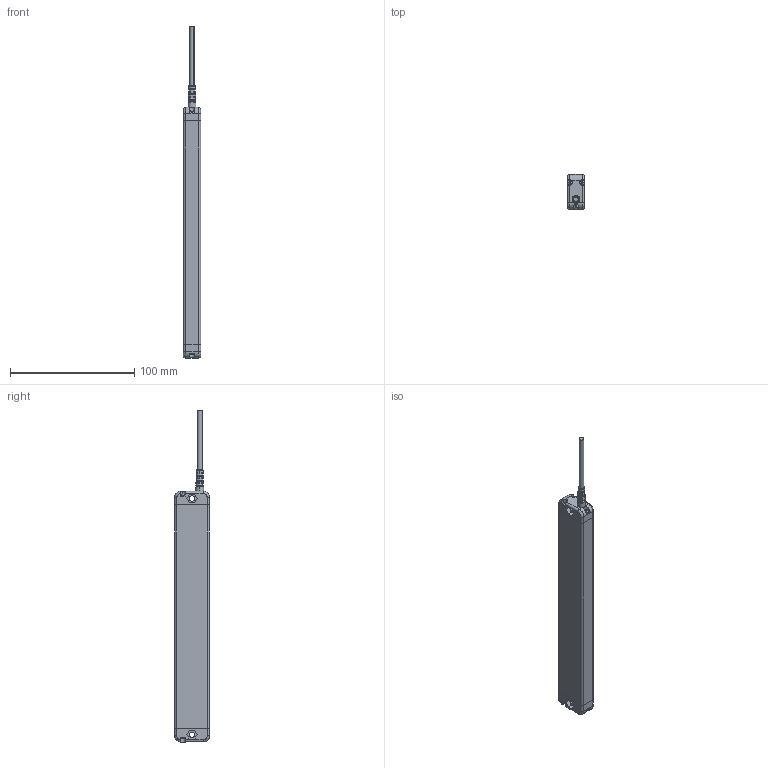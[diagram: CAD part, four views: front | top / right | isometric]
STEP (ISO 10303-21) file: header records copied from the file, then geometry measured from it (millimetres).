
FILE_DESCRIPTION (( 'STEP AP214' ), '1' );
FILE_NAME ('PG3-10RT-16.STEP', '2025-08-19T06:42:05', ( 'Windows User' ), ( 'P R C' ), 'SwSTEP 2.0', 'SolidWorks 2023', '' );
FILE_SCHEMA (( 'AUTOMOTIVE_DESIGN' ));
Length unit declared in the file: millimetre
Products named in the file (3): PG3-10RT-16; PG3-10-30; PG3后端盖
Assembly tree (2 placements, depth 2):
  PG3-10RT-16
    PG3-10-30
    PG3后端盖
Bounding box: 14 x 28 x 267.51 mm (x, y, z)
Volume: 76772.1 mm3; surface area: 20666.8 mm2
Topology: 6 solids, 6 shells, 334 faces, 882 edges, 578 vertices
Faces by surface type: plane 183, cylinder 110, bspline 22, cone 19
Entity records: 11747 total; most frequent: CARTESIAN_POINT 3752, ORIENTED_EDGE 1764, DIRECTION 1504, EDGE_CURVE 882, VERTEX_POINT 578, AXIS2_PLACEMENT_3D 546, VECTOR 412, LINE 412
